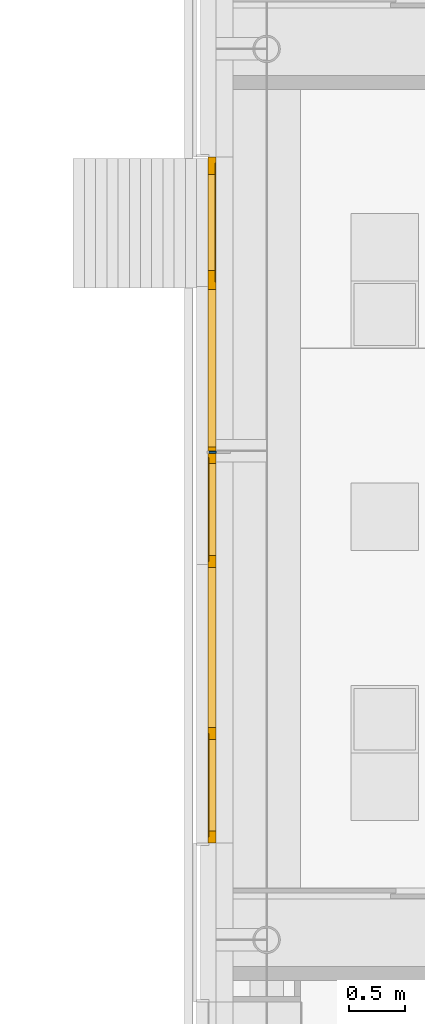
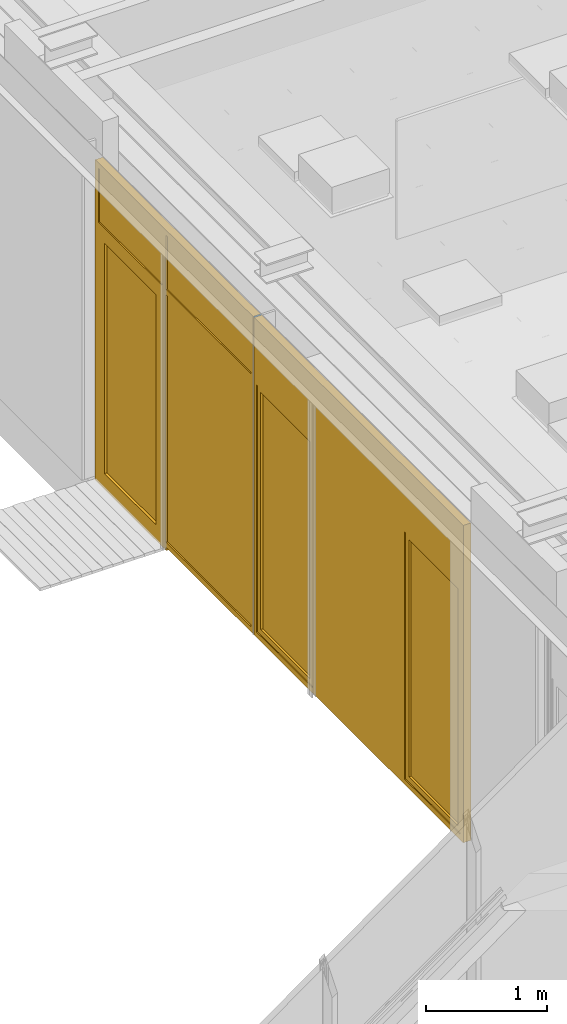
# One storey, part 26 of 347: 1 door, 1 member, 1 window, 2 openings.
"""IFC2X3 building model written with IfcOpenShell, lengths in millimetres."""

from ifc_helpers import new_model, entity, si_unit, converted_unit, derived_unit, money_unit, direction, frame, origin_with_axes, place, context, subcontext, project, spatial, open_shell, faceted_brep, surface_model, material, type_object, element, fill, save


model = new_model("IFC2X3")

# Units and contexts
model_context = context("Model", 3, precision=0.01, world=origin_with_axes(), true_north=direction((0.0, 1.0)))
plan_context = context("Plan", 3, precision=0.01, world=origin_with_axes(), true_north=direction((0.0, 1.0)))
body_context = subcontext(model_context, "Body", "Model", "MODEL_VIEW")
ifc_project = project(units=[si_unit("LENGTHUNIT", "METRE", prefix="MILLI"), si_unit("AREAUNIT", "SQUARE_METRE"), si_unit("VOLUMEUNIT", "CUBIC_METRE"), converted_unit("PLANEANGLEUNIT", "DEGREE", entity("IfcPlaneAngleMeasure", 0.0174532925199), si_unit("PLANEANGLEUNIT", "RADIAN"), dimensions=[0, 0, 0, 0, 0, 0, 0]), money_unit("EUR"), converted_unit("TIMEUNIT", "Year", entity("IfcTimeMeasure", 31556926.0), si_unit("TIMEUNIT", "SECOND"), dimensions=[0, 0, 1, 0, 0, 0, 0]), si_unit("MASSUNIT", "GRAM", prefix="KILO"), si_unit("THERMODYNAMICTEMPERATUREUNIT", "DEGREE_CELSIUS"), si_unit("LUMINOUSINTENSITYUNIT", "LUMEN"), si_unit("ENERGYUNIT", "JOULE", prefix="MEGA"), derived_unit("THERMALCONDUCTANCEUNIT", [(si_unit("POWERUNIT", "WATT"), 1), (si_unit("LENGTHUNIT", "METRE"), -1), (si_unit("THERMODYNAMICTEMPERATUREUNIT", "KELVIN"), -1)]), derived_unit("SPECIFICHEATCAPACITYUNIT", [(si_unit("ENERGYUNIT", "JOULE"), 1), (si_unit("MASSUNIT", "GRAM", prefix="KILO"), -1), (si_unit("THERMODYNAMICTEMPERATUREUNIT", "KELVIN"), -1)]), derived_unit("MASSDENSITYUNIT", [(si_unit("MASSUNIT", "GRAM", prefix="KILO"), 1), (si_unit("VOLUMEUNIT", "CUBIC_METRE"), -1)])], contexts=[model_context, plan_context])

# Site, building, storey
site_placement = place(None, origin_with_axes())
site = spatial("IfcSite", under=ifc_project, at=site_placement, Name="Site", CompositionType="ELEMENT")
building_placement = place(site_placement, origin_with_axes())
building = spatial("IfcBuilding", under=site, at=building_placement, Name="Naam gebouw", CompositionType="ELEMENT")
storey_placement = place(building_placement, origin_with_axes())
storey = spatial("IfcBuildingStorey", under=building, at=storey_placement, Name="begane grond", CompositionType="ELEMENT", Elevation=0.0)

# Member, openings, door, window
ifc_material = material(Name="31 pui/kozijn")
member_type = type_object("IfcMemberType", Name="31 pui (3200+) 62 x 3200", PredefinedType="MEMBER")
member_placement = place(storey_placement, frame((24275.0, 27312.5, 0.0), z_axis=(0.0, 0.0, 1.0), x_axis=(0.0, -1.0, 0.0)))
member = element("IfcMember", 1, at=member_placement, inside=storey, type_object=member_type, material=ifc_material, Name="21_31 buitenkozijn pui", ObjectType="MEMBER", context=body_context, shape_type="Brep", body=[
    faceted_brep([(2617.5, -150.0, 0.0), (2617.5, -150.0, 3200.0), (2632.50000034, -150.0, 3200.0), (2632.50000034, -150.0, 0.0), (2617.5, -212.0, 3200.0), (2617.5, -212.0, 0.0), (2632.50000034, -212.0, 3200.0), (2632.50000034, -212.0, 0.0)], [[[0, 1, 2, 3]], [[4, 1, 0, 5]], [[1, 4, 6, 2]], [[2, 6, 7, 3]], [[5, 0, 3, 7]], [[4, 5, 7, 6]]]),
])
opening_1_placement = place(member_placement, frame((4366.25000034, 0.0, -10.0), z_axis=(0.0, 0.0, 1.0), x_axis=(1.0, 0.0, 0.0)))
opening_1 = element("IfcOpeningElement", 2, at=opening_1_placement, cuts=member, Name="31_merk-AJ4", context=body_context, shape_type="Brep", body=[
    faceted_brep([(1733.75, 1320.0, 0.0), (1733.75, 1320.0, 3210.0), (1733.75, -1196.0, 3210.0), (1733.75, -1196.0, 0.0), (-1733.75, 1320.0, 0.0), (-1733.75, 1320.0, 3210.0), (-1733.75, -1196.0, 3210.0), (-1733.75, -1196.0, 0.0)], [[[0, 1, 2, 3]], [[0, 4, 5, 1]], [[1, 5, 6, 2]], [[3, 2, 6, 7]], [[4, 0, 3, 7]], [[5, 4, 7, 6]]]),
])
opening_2_placement = place(member_placement, frame((1308.75, 0.0, -40.0), z_axis=(0.0, 0.0, 1.0), x_axis=(1.0, 0.0, 0.0)))
opening_2 = element("IfcOpeningElement", 3, at=opening_2_placement, cuts=member, Name="32_merk-AJ3", context=body_context, shape_type="Brep", body=[
    faceted_brep([(1308.75, 1320.0, 30.0000107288), (1308.75, 1320.0, 3240.0), (1308.75, -1196.0, 3240.0), (1308.75, -1196.0, 30.0000107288), (-131.750017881, 1320.0, 30.0000107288), (-131.750017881, 1320.0, 0.0), (-1308.74999464, 1320.0, 0.0), (-1308.74999464, 1320.0, 3240.0), (-1308.74999464, -1196.0, 3240.0), (-1308.74999464, -1196.0, 0.0), (-131.750017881, -1196.0, 0.0), (-131.750017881, -1196.0, 30.0000107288)], [[[0, 1, 2, 3]], [[0, 4, 5, 6, 7, 1]], [[1, 7, 8, 2]], [[3, 2, 8, 9, 10, 11]], [[4, 0, 3, 11]], [[5, 4, 11, 10]], [[6, 5, 10, 9]], [[7, 6, 9, 8]]]),
])
door_style = type_object("IfcDoorStyle", Name="D1 bl zl1-b 25", ConstructionType="NOTDEFINED", OperationType="SINGLE_SWING_RIGHT", ParameterTakesPrecedence=False, Sizeable=False)
door_placement = place(opening_2_placement, frame((1308.75, 0.0, 0.0), z_axis=(0.0, 0.0, 1.0), x_axis=(-1.0, 0.0, 0.0)))
door = element("IfcDoor", 4, at=door_placement, inside=storey, type_object=door_style, Name="32_merk-AJ3", ObjectType="DOOR", OverallHeight=3240.0, OverallWidth=2617.5, context=body_context, shape_type="SurfaceModel", body=[
    faceted_brep([(2563.5, 222.0, 0.0), (2563.5, 150.0, 0.0), (1508.5, 150.0, 0.0), (1508.5, 222.0, 0.0), (2563.5, 222.0, 48.0), (2563.5, 150.0, 48.0), (1508.5, 150.0, 48.0), (1508.5, 222.0, 48.0)], [[[0, 1, 2, 3]], [[0, 4, 5, 1]], [[1, 5, 6, 2]], [[3, 2, 6, 7]], [[4, 0, 3, 7]], [[5, 4, 7, 6]]]),
    faceted_brep([(0.0, 222.0, 30.0), (39.0, 222.0, 30.0), (39.0, 150.0, 30.0), (0.0, 150.0, 30.0), (0.0, 222.0, 3186.0), (39.0, 222.0, 3186.0), (39.0, 222.0, 2640.0), (39.0, 222.0, 2586.0), (39.0, 222.0, 84.0), (39.0, 150.0, 84.0), (39.0, 150.0, 2586.0), (39.0, 150.0, 2640.0), (39.0, 150.0, 3186.0), (0.0, 150.0, 3186.0)], [[[0, 1, 2, 3]], [[0, 4, 5, 6, 7, 8, 1]], [[1, 8, 9, 2]], [[3, 2, 9, 10, 11, 12, 13]], [[4, 0, 3, 13]], [[5, 4, 13, 12]], [[6, 5, 12, 11]], [[7, 6, 11, 10]], [[8, 7, 10, 9]]]),
    faceted_brep([(1440.5, 222.0, 3186.0), (1440.5, 222.0, 2640.0), (1440.5, 150.0, 2640.0), (1440.5, 150.0, 3186.0), (1508.5, 222.0, 3186.0), (1508.5, 222.0, 2640.0), (1508.5, 222.0, 2586.0), (1508.5, 222.0, 0.0), (1440.5, 222.0, 0.0), (1440.5, 222.0, 30.0), (1440.5, 222.0, 84.0), (1440.5, 222.0, 2586.0), (1440.5, 150.0, 2586.0), (1440.5, 150.0, 84.0), (1440.5, 150.0, 30.0), (1440.5, 150.0, 0.0), (1508.5, 150.0, 0.0), (1508.5, 150.0, 2586.0), (1508.5, 150.0, 2640.0), (1508.5, 150.0, 3186.0)], [[[0, 1, 2, 3]], [[0, 4, 5, 6, 7, 8, 9, 10, 11, 1]], [[1, 11, 12, 2]], [[3, 2, 12, 13, 14, 15, 16, 17, 18, 19]], [[4, 0, 3, 19]], [[5, 4, 19, 18]], [[6, 5, 18, 17]], [[7, 6, 17, 16]], [[8, 7, 16, 15]], [[9, 8, 15, 14]], [[10, 9, 14, 13]], [[11, 10, 13, 12]]]),
    faceted_brep([(39.0, 222.0, 84.0), (39.0, 222.0, 30.0), (39.0, 150.0, 30.0), (39.0, 150.0, 84.0), (1440.5, 222.0, 84.0), (1440.5, 222.0, 30.0), (1440.5, 150.0, 30.0), (1440.5, 150.0, 84.0)], [[[0, 1, 2, 3]], [[0, 4, 5, 1]], [[1, 5, 6, 2]], [[3, 2, 6, 7]], [[4, 0, 3, 7]], [[5, 4, 7, 6]]]),
    faceted_brep([(2617.5, 222.0, 0.0), (2617.5, 222.0, 3186.0), (2617.5, 150.0, 3186.0), (2617.5, 150.0, 0.0), (2563.5, 222.0, 0.0), (2563.5, 222.0, 2586.0), (2563.5, 222.0, 2640.0), (2563.5, 222.0, 3186.0), (2563.5, 150.0, 3186.0), (2563.5, 150.0, 2640.0), (2563.5, 150.0, 2586.0), (2563.5, 150.0, 0.0)], [[[0, 1, 2, 3]], [[0, 4, 5, 6, 7, 1]], [[1, 7, 8, 2]], [[3, 2, 8, 9, 10, 11]], [[4, 0, 3, 11]], [[5, 4, 11, 10]], [[6, 5, 10, 9]], [[7, 6, 9, 8]]]),
    faceted_brep([(0.0, 222.0, 3240.0), (0.0, 222.0, 3186.0), (0.0, 150.0, 3186.0), (0.0, 150.0, 3240.0), (2617.5, 222.0, 3240.0), (2617.5, 222.0, 3186.0), (2563.5, 222.0, 3186.0), (1508.5, 222.0, 3186.0), (1440.5, 222.0, 3186.0), (39.0, 222.0, 3186.0), (39.0, 150.0, 3186.0), (1440.5, 150.0, 3186.0), (1508.5, 150.0, 3186.0), (2563.5, 150.0, 3186.0), (2617.5, 150.0, 3186.0), (2617.5, 150.0, 3240.0)], [[[0, 1, 2, 3]], [[0, 4, 5, 6, 7, 8, 9, 1]], [[1, 9, 10, 2]], [[3, 2, 10, 11, 12, 13, 14, 15]], [[4, 0, 3, 15]], [[5, 4, 15, 14]], [[6, 5, 14, 13]], [[7, 6, 13, 12]], [[8, 7, 12, 11]], [[9, 8, 11, 10]]]),
    faceted_brep([(39.0, 222.0, 2586.0), (1440.5, 222.0, 2586.0), (1440.5, 150.0, 2586.0), (39.0, 150.0, 2586.0), (39.0, 222.0, 2640.0), (1440.5, 222.0, 2640.0), (1440.5, 150.0, 2640.0), (39.0, 150.0, 2640.0)], [[[0, 1, 2, 3]], [[0, 4, 5, 1]], [[1, 5, 6, 2]], [[3, 2, 6, 7]], [[4, 0, 3, 7]], [[5, 4, 7, 6]]]),
    faceted_brep([(1508.5, 222.0, 2640.0), (1508.5, 222.0, 2586.0), (1508.5, 150.0, 2586.0), (1508.5, 150.0, 2640.0), (2563.5, 222.0, 2640.0), (2563.5, 222.0, 2586.0), (2563.5, 150.0, 2586.0), (2563.5, 150.0, 2640.0)], [[[0, 1, 2, 3]], [[0, 4, 5, 1]], [[1, 5, 6, 2]], [[3, 2, 6, 7]], [[4, 0, 3, 7]], [[5, 4, 7, 6]]]),
    faceted_brep([(2563.5, 222.0, 158.0), (2563.5, 160.0, 158.0), (2463.5, 160.0, 158.0), (2463.5, 222.0, 158.0), (2563.5, 222.0, 2486.0), (2563.5, 160.0, 2486.0), (2463.5, 160.0, 2486.0), (2463.5, 222.0, 2486.0)], [[[0, 1, 2, 3]], [[4, 5, 1, 0]], [[1, 5, 6, 2]], [[3, 2, 6, 7]], [[0, 3, 7, 4]], [[7, 6, 5, 4]]]),
    faceted_brep([(1508.5, 222.0, 158.0), (1508.5, 160.0, 158.0), (1508.5, 160.0, 2486.0), (1508.5, 222.0, 2486.0), (1608.5, 222.0, 158.0), (1608.5, 160.0, 158.0), (1608.5, 160.0, 2486.0), (1608.5, 222.0, 2486.0)], [[[0, 1, 2, 3]], [[4, 5, 1, 0]], [[1, 5, 6, 2]], [[3, 2, 6, 7]], [[0, 3, 7, 4]], [[7, 6, 5, 4]]]),
    faceted_brep([(2563.5, 222.0, 48.0), (2563.5, 160.0, 48.0), (1508.5, 160.0, 48.0), (1508.5, 222.0, 48.0), (2563.5, 222.0, 158.0), (2563.5, 160.0, 158.0), (2463.5, 160.0, 158.0), (1608.5, 160.0, 158.0), (1508.5, 160.0, 158.0), (1508.5, 222.0, 158.0), (1608.5, 222.0, 158.0), (2463.5, 222.0, 158.0)], [[[0, 1, 2, 3]], [[4, 5, 1, 0]], [[1, 5, 6, 7, 8, 2]], [[3, 2, 8, 9]], [[0, 3, 9, 10, 11, 4]], [[11, 6, 5, 4]], [[10, 7, 6, 11]], [[9, 8, 7, 10]]]),
    faceted_brep([(2563.5, 222.0, 2586.0), (2563.5, 160.0, 2586.0), (2563.5, 160.0, 2486.0), (2563.5, 222.0, 2486.0), (1508.5, 222.0, 2586.0), (1508.5, 160.0, 2586.0), (1508.5, 160.0, 2486.0), (1608.5, 160.0, 2486.0), (2463.5, 160.0, 2486.0), (2463.5, 222.0, 2486.0), (1608.5, 222.0, 2486.0), (1508.5, 222.0, 2486.0)], [[[0, 1, 2, 3]], [[4, 5, 1, 0]], [[1, 5, 6, 7, 8, 2]], [[3, 2, 8, 9]], [[0, 3, 9, 10, 11, 4]], [[11, 6, 5, 4]], [[10, 7, 6, 11]], [[9, 8, 7, 10]]]),
    surface_model("IfcShellBasedSurfaceModel", [(2463.5, 197.0, 158.0), (1608.5, 197.0, 158.0), (1608.5, 197.0, 2486.0), (2463.5, 197.0, 2486.0)], [open_shell([[[0, 1, 2, 3]]])]),
    surface_model("IfcShellBasedSurfaceModel", [(2463.5, 185.0, 158.0), (2463.5, 185.0, 2486.0), (1608.5, 185.0, 2486.0), (1608.5, 185.0, 158.0)], [open_shell([[[0, 1, 2, 3]]])]),
    surface_model("IfcShellBasedSurfaceModel", [(39.0, 210.0, 2640.0), (39.0, 210.0, 3186.0), (1440.5, 210.0, 3186.0), (1440.5, 210.0, 2640.0)], [open_shell([[[0, 1, 2, 3]]])]),
    surface_model("IfcShellBasedSurfaceModel", [(39.0, 198.0, 2640.0), (1440.5, 198.0, 2640.0), (1440.5, 198.0, 3186.0), (39.0, 198.0, 3186.0)], [open_shell([[[0, 1, 2, 3]]])]),
    surface_model("IfcShellBasedSurfaceModel", [(1508.5, 210.0, 2640.0), (1508.5, 210.0, 3186.0), (2563.5, 210.0, 3186.0), (2563.5, 210.0, 2640.0)], [open_shell([[[0, 1, 2, 3]]])]),
    surface_model("IfcShellBasedSurfaceModel", [(1508.5, 198.0, 2640.0), (2563.5, 198.0, 2640.0), (2563.5, 198.0, 3186.0), (1508.5, 198.0, 3186.0)], [open_shell([[[0, 1, 2, 3]]])]),
    surface_model("IfcShellBasedSurfaceModel", [(39.0, 210.0, 84.0), (39.0, 210.0, 2586.0), (1440.5, 210.0, 2586.0), (1440.5, 210.0, 84.0)], [open_shell([[[0, 1, 2, 3]]])]),
    surface_model("IfcShellBasedSurfaceModel", [(39.0, 198.0, 84.0), (1440.5, 198.0, 84.0), (1440.5, 198.0, 2586.0), (39.0, 198.0, 2586.0)], [open_shell([[[0, 1, 2, 3]]])]),
])
fill(opening_2, door)
window_style = type_object("IfcWindowStyle", Name="R3 bl ol 25", ConstructionType="NOTDEFINED", OperationType="USERDEFINED", ParameterTakesPrecedence=False, Sizeable=False)
window_placement = place(opening_1_placement, frame((-1733.75, 0.0, 0.0), z_axis=(0.0, 0.0, 1.0), x_axis=(1.0, 0.0, 0.0)))
window = element("IfcWindow", 5, at=window_placement, inside=storey, type_object=window_style, Name="31_merk-AJ4", ObjectType="WINDOW", OverallHeight=3210.0, OverallWidth=3467.5, context=body_context, shape_type="SurfaceModel", body=[
    faceted_brep([(24.0, -150.0, 54.0), (0.0, -150.0, 54.0), (0.0, -150.0, 3156.0), (39.0, -150.0, 3156.0), (39.0, -150.0, 2610.0), (39.0, -150.0, 2571.0), (24.0, -150.0, 2571.0), (24.0, -212.0, 54.0), (39.0, -212.0, 54.0), (39.0, -222.0, 54.0), (0.0, -222.0, 54.0), (0.0, -222.0, 3156.0), (39.0, -222.0, 3156.0), (39.0, -222.0, 2610.0), (39.0, -212.0, 2571.0), (39.0, -222.0, 2556.0), (39.0, -212.0, 2556.0), (24.0, -212.0, 2571.0)], [[[0, 1, 2, 3, 4, 5, 6]], [[7, 8, 9, 10, 1, 0]], [[2, 1, 10, 11]], [[3, 2, 11, 12]], [[4, 3, 12, 13]], [[14, 5, 4, 13, 15, 16]], [[14, 17, 6, 5]], [[6, 17, 7, 0]], [[16, 8, 7, 17, 14]], [[16, 15, 9, 8]], [[13, 12, 11, 10, 9, 15]]]),
    faceted_brep([(3428.5, -150.0, 2571.0), (3413.5, -150.0, 2571.0), (3413.5, -150.0, 2610.0), (3413.5, -150.0, 3156.0), (3467.5, -150.0, 3156.0), (3467.5, -150.0, 54.0), (3428.5, -150.0, 54.0), (3428.5, -212.0, 2571.0), (3413.5, -212.0, 2571.0), (3413.5, -212.0, 2556.0), (3413.5, -222.0, 2556.0), (3413.5, -222.0, 2610.0), (3413.5, -222.0, 3156.0), (3467.5, -222.0, 3156.0), (3467.5, -222.0, 54.0), (3428.5, -212.0, 54.0), (3413.5, -222.0, 54.0), (3413.5, -212.0, 54.0)], [[[0, 1, 2, 3, 4, 5, 6]], [[0, 7, 8, 1]], [[8, 9, 10, 11, 2, 1]], [[3, 2, 11, 12]], [[4, 3, 12, 13]], [[5, 4, 13, 14]], [[15, 6, 5, 14, 16, 17]], [[6, 15, 7, 0]], [[17, 9, 8, 7, 15]], [[17, 16, 10, 9]], [[14, 13, 12, 11, 10, 16]]]),
    faceted_brep([(2479.5, -150.0, 54.0), (2440.5, -150.0, 54.0), (2440.5, -150.0, 2556.0), (2440.5, -150.0, 2610.0), (2440.5, -150.0, 3156.0), (2494.5, -150.0, 3156.0), (2494.5, -150.0, 2610.0), (2494.5, -150.0, 2571.0), (2479.5, -150.0, 2571.0), (2479.5, -212.0, 54.0), (2494.5, -212.0, 54.0), (2494.5, -222.0, 54.0), (2440.5, -222.0, 54.0), (2440.5, -222.0, 2556.0), (2440.5, -222.0, 2610.0), (2440.5, -222.0, 3156.0), (2494.5, -222.0, 3156.0), (2494.5, -222.0, 2610.0), (2494.5, -212.0, 2571.0), (2494.5, -222.0, 2556.0), (2494.5, -212.0, 2556.0), (2479.5, -212.0, 2571.0)], [[[0, 1, 2, 3, 4, 5, 6, 7, 8]], [[9, 10, 11, 12, 1, 0]], [[2, 1, 12, 13]], [[3, 2, 13, 14]], [[4, 3, 14, 15]], [[5, 4, 15, 16]], [[6, 5, 16, 17]], [[18, 7, 6, 17, 19, 20]], [[18, 21, 8, 7]], [[8, 21, 9, 0]], [[20, 10, 9, 21, 18]], [[20, 19, 11, 10]], [[13, 12, 11, 19, 17, 16, 15, 14]]]),
    faceted_brep([(980.5, -150.0, 2571.0), (965.5, -150.0, 2571.0), (965.5, -150.0, 2610.0), (965.5, -150.0, 3156.0), (1019.5, -150.0, 3156.0), (1019.5, -150.0, 2610.0), (1019.5, -150.0, 2556.0), (1019.5, -150.0, 54.0), (980.5, -150.0, 54.0), (980.5, -212.0, 2571.0), (965.5, -212.0, 2571.0), (965.5, -212.0, 2556.0), (965.5, -222.0, 2556.0), (965.5, -222.0, 2610.0), (965.5, -222.0, 3156.0), (1019.5, -222.0, 3156.0), (1019.5, -222.0, 2610.0), (1019.5, -222.0, 2556.0), (1019.5, -222.0, 54.0), (980.5, -212.0, 54.0), (965.5, -222.0, 54.0), (965.5, -212.0, 54.0)], [[[0, 1, 2, 3, 4, 5, 6, 7, 8]], [[0, 9, 10, 1]], [[10, 11, 12, 13, 2, 1]], [[3, 2, 13, 14]], [[4, 3, 14, 15]], [[5, 4, 15, 16]], [[6, 5, 16, 17]], [[7, 6, 17, 18]], [[19, 8, 7, 18, 20, 21]], [[8, 19, 9, 0]], [[21, 11, 10, 9, 19]], [[21, 20, 12, 11]], [[14, 13, 12, 20, 18, 17, 16, 15]]]),
    faceted_brep([(2494.5, -150.0, 2571.0), (2494.5, -150.0, 2610.0), (3413.5, -150.0, 2610.0), (3413.5, -150.0, 2571.0), (2494.5, -212.0, 2571.0), (2494.5, -212.0, 2556.0), (2494.5, -222.0, 2556.0), (2494.5, -222.0, 2610.0), (3413.5, -222.0, 2610.0), (3413.5, -212.0, 2571.0), (3413.5, -222.0, 2556.0), (3413.5, -212.0, 2556.0)], [[[0, 1, 2, 3]], [[4, 5, 6, 7, 1, 0]], [[2, 1, 7, 8]], [[9, 3, 2, 8, 10, 11]], [[9, 4, 0, 3]], [[11, 5, 4, 9]], [[11, 10, 6, 5]], [[8, 7, 6, 10]]]),
    faceted_brep([(1019.5, -150.0, 2610.0), (1019.5, -150.0, 2556.0), (1019.5, -222.0, 2556.0), (1019.5, -222.0, 2610.0), (2440.5, -150.0, 2610.0), (2440.5, -150.0, 2556.0), (2440.5, -222.0, 2556.0), (2440.5, -222.0, 2610.0)], [[[0, 1, 2, 3]], [[4, 5, 1, 0]], [[1, 5, 6, 2]], [[2, 6, 7, 3]], [[4, 0, 3, 7]], [[5, 4, 7, 6]]]),
    faceted_brep([(39.0, -150.0, 2571.0), (39.0, -150.0, 2610.0), (965.5, -150.0, 2610.0), (965.5, -150.0, 2571.0), (39.0, -212.0, 2571.0), (39.0, -212.0, 2556.0), (39.0, -222.0, 2556.0), (39.0, -222.0, 2610.0), (965.5, -222.0, 2610.0), (965.5, -212.0, 2571.0), (965.5, -222.0, 2556.0), (965.5, -212.0, 2556.0)], [[[0, 1, 2, 3]], [[4, 5, 6, 7, 1, 0]], [[2, 1, 7, 8]], [[9, 3, 2, 8, 10, 11]], [[9, 4, 0, 3]], [[11, 5, 4, 9]], [[11, 10, 6, 5]], [[8, 7, 6, 10]]]),
    faceted_brep([(965.5, -212.0, 54.0), (965.5, -222.0, 54.0), (1019.5, -222.0, 54.0), (1019.5, -150.0, 54.0), (980.5, -150.0, 54.0), (980.5, -212.0, 54.0), (39.0, -212.0, 54.0), (39.0, -222.0, 54.0), (0.0, -222.0, 54.0), (0.0, -222.0, 0.0), (3467.5, -222.0, 0.0), (3467.5, -222.0, 54.0), (3413.5, -222.0, 54.0), (2494.5, -222.0, 54.0), (2440.5, -222.0, 54.0), (2440.5, -150.0, 54.0), (24.0, -150.0, 39.0), (980.5, -150.0, 39.0), (2479.5, -150.0, 54.0), (2479.5, -150.0, 39.0), (3428.5, -150.0, 39.0), (3428.5, -150.0, 54.0), (3467.5, -150.0, 54.0), (3467.5, -150.0, 0.0), (0.0, -150.0, 0.0), (0.0, -150.0, 54.0), (24.0, -150.0, 54.0), (980.5, -212.0, 39.0), (24.0, -212.0, 39.0), (24.0, -212.0, 54.0), (3413.5, -212.0, 54.0), (3428.5, -212.0, 54.0), (2494.5, -212.0, 54.0), (2479.5, -212.0, 54.0), (2479.5, -212.0, 39.0), (3428.5, -212.0, 39.0)], [[[0, 1, 2, 3, 4, 5]], [[6, 7, 1, 0]], [[8, 9, 10, 11, 12, 13, 14, 2, 1, 7]], [[15, 3, 2, 14]], [[16, 17, 4, 3, 15, 18, 19, 20, 21, 22, 23, 24, 25, 26]], [[17, 27, 5, 4]], [[5, 27, 28, 29, 6, 0]], [[29, 26, 25, 8, 7, 6]], [[25, 24, 9, 8]], [[24, 23, 10, 9]], [[23, 22, 11, 10]], [[30, 12, 11, 22, 21, 31]], [[32, 13, 12, 30]], [[33, 18, 15, 14, 13, 32]], [[16, 28, 27, 17]], [[33, 34, 19, 18]], [[19, 34, 35, 20]], [[20, 35, 31, 21]], [[29, 28, 16, 26]], [[31, 35, 34, 33, 32, 30]]]),
    faceted_brep([(965.5, -222.0, 3156.0), (965.5, -150.0, 3156.0), (1019.5, -150.0, 3156.0), (1019.5, -222.0, 3156.0), (39.0, -222.0, 3156.0), (39.0, -150.0, 3156.0), (0.0, -150.0, 3156.0), (0.0, -150.0, 3210.0), (3467.5, -150.0, 3210.0), (3467.5, -150.0, 3156.0), (3413.5, -150.0, 3156.0), (2494.5, -150.0, 3156.0), (2440.5, -150.0, 3156.0), (2440.5, -222.0, 3156.0), (2494.5, -222.0, 3156.0), (3413.5, -222.0, 3156.0), (3467.5, -222.0, 3156.0), (3467.5, -222.0, 3210.0), (0.0, -222.0, 3210.0), (0.0, -222.0, 3156.0)], [[[0, 1, 2, 3]], [[4, 5, 1, 0]], [[1, 5, 6, 7, 8, 9, 10, 11, 12, 2]], [[3, 2, 12, 13]], [[0, 3, 13, 14, 15, 16, 17, 18, 19, 4]], [[19, 6, 5, 4]], [[18, 7, 6, 19]], [[17, 8, 7, 18]], [[16, 9, 8, 17]], [[15, 10, 9, 16]], [[14, 11, 10, 15]], [[13, 12, 11, 14]]]),
    surface_model("IfcShellBasedSurfaceModel", [(39.0, -222.0, 2610.0), (965.5, -222.0, 2610.0), (965.5, -222.0, 3156.0), (39.0, -222.0, 3156.0)], [open_shell([[[0, 1, 2, 3]]])]),
    surface_model("IfcShellBasedSurfaceModel", [(39.0, -202.0, 2610.0), (39.0, -202.0, 3156.0), (965.5, -202.0, 3156.0), (965.5, -202.0, 2610.0)], [open_shell([[[0, 1, 2, 3]]])]),
    surface_model("IfcShellBasedSurfaceModel", [(1019.5, -222.0, 2610.0), (2440.5, -222.0, 2610.0), (2440.5, -222.0, 3156.0), (1019.5, -222.0, 3156.0)], [open_shell([[[0, 1, 2, 3]]])]),
    surface_model("IfcShellBasedSurfaceModel", [(1019.5, -202.0, 2610.0), (1019.5, -202.0, 3156.0), (2440.5, -202.0, 3156.0), (2440.5, -202.0, 2610.0)], [open_shell([[[0, 1, 2, 3]]])]),
    surface_model("IfcShellBasedSurfaceModel", [(2494.5, -222.0, 2610.0), (3413.5, -222.0, 2610.0), (3413.5, -222.0, 3156.0), (2494.5, -222.0, 3156.0)], [open_shell([[[0, 1, 2, 3]]])]),
    surface_model("IfcShellBasedSurfaceModel", [(2494.5, -202.0, 2610.0), (2494.5, -202.0, 3156.0), (3413.5, -202.0, 3156.0), (3413.5, -202.0, 2610.0)], [open_shell([[[0, 1, 2, 3]]])]),
    faceted_brep([(92.0, -212.0, 2503.0), (92.0, -150.0, 2503.0), (24.0, -150.0, 2503.0), (24.0, -212.0, 2503.0), (92.0, -212.0, 107.0), (92.0, -150.0, 107.0), (24.0, -150.0, 107.0), (24.0, -212.0, 107.0)], [[[0, 1, 2, 3]], [[4, 5, 1, 0]], [[1, 5, 6, 2]], [[3, 2, 6, 7]], [[0, 3, 7, 4]], [[7, 6, 5, 4]]]),
    faceted_brep([(912.5, -212.0, 107.0), (912.5, -150.0, 107.0), (980.5, -150.0, 107.0), (980.5, -212.0, 107.0), (912.5, -212.0, 2503.0), (912.5, -150.0, 2503.0), (980.5, -150.0, 2503.0), (980.5, -212.0, 2503.0)], [[[0, 1, 2, 3]], [[4, 5, 1, 0]], [[1, 5, 6, 2]], [[3, 2, 6, 7]], [[0, 3, 7, 4]], [[7, 6, 5, 4]]]),
    faceted_brep([(980.5, -212.0, 39.0), (980.5, -150.0, 39.0), (980.5, -150.0, 107.0), (980.5, -212.0, 107.0), (24.0, -212.0, 39.0), (24.0, -150.0, 39.0), (24.0, -150.0, 107.0), (92.0, -150.0, 107.0), (912.5, -150.0, 107.0), (912.5, -212.0, 107.0), (92.0, -212.0, 107.0), (24.0, -212.0, 107.0)], [[[0, 1, 2, 3]], [[4, 5, 1, 0]], [[1, 5, 6, 7, 8, 2]], [[3, 2, 8, 9]], [[0, 3, 9, 10, 11, 4]], [[11, 6, 5, 4]], [[10, 7, 6, 11]], [[9, 8, 7, 10]]]),
    faceted_brep([(24.0, -212.0, 2571.0), (24.0, -150.0, 2571.0), (24.0, -150.0, 2503.0), (24.0, -212.0, 2503.0), (980.5, -212.0, 2571.0), (980.5, -150.0, 2571.0), (980.5, -150.0, 2503.0), (912.5, -150.0, 2503.0), (92.0, -150.0, 2503.0), (92.0, -212.0, 2503.0), (912.5, -212.0, 2503.0), (980.5, -212.0, 2503.0)], [[[0, 1, 2, 3]], [[4, 5, 1, 0]], [[1, 5, 6, 7, 8, 2]], [[3, 2, 8, 9]], [[0, 3, 9, 10, 11, 4]], [[11, 6, 5, 4]], [[10, 7, 6, 11]], [[9, 8, 7, 10]]]),
    surface_model("IfcShellBasedSurfaceModel", [(92.0, -191.0, 107.0), (912.5, -191.0, 107.0), (912.5, -191.0, 2503.0), (92.0, -191.0, 2503.0)], [open_shell([[[0, 1, 2, 3]]])]),
    surface_model("IfcShellBasedSurfaceModel", [(92.0, -171.0, 107.0), (92.0, -171.0, 2503.0), (912.5, -171.0, 2503.0), (912.5, -171.0, 107.0)], [open_shell([[[0, 1, 2, 3]]])]),
    surface_model("IfcShellBasedSurfaceModel", [(1019.5, -222.0, 54.0), (2440.5, -222.0, 54.0), (2440.5, -222.0, 2556.0), (1019.5, -222.0, 2556.0)], [open_shell([[[0, 1, 2, 3]]])]),
    surface_model("IfcShellBasedSurfaceModel", [(1019.5, -202.0, 54.0), (1019.5, -202.0, 2556.0), (2440.5, -202.0, 2556.0), (2440.5, -202.0, 54.0)], [open_shell([[[0, 1, 2, 3]]])]),
    faceted_brep([(2547.5, -212.0, 2503.0), (2547.5, -150.0, 2503.0), (2479.5, -150.0, 2503.0), (2479.5, -212.0, 2503.0), (2547.5, -212.0, 107.0), (2547.5, -150.0, 107.0), (2479.5, -150.0, 107.0), (2479.5, -212.0, 107.0)], [[[0, 1, 2, 3]], [[4, 5, 1, 0]], [[1, 5, 6, 2]], [[3, 2, 6, 7]], [[0, 3, 7, 4]], [[7, 6, 5, 4]]]),
    faceted_brep([(3360.5, -212.0, 107.0), (3360.5, -150.0, 107.0), (3428.5, -150.0, 107.0), (3428.5, -212.0, 107.0), (3360.5, -212.0, 2503.0), (3360.5, -150.0, 2503.0), (3428.5, -150.0, 2503.0), (3428.5, -212.0, 2503.0)], [[[0, 1, 2, 3]], [[4, 5, 1, 0]], [[1, 5, 6, 2]], [[3, 2, 6, 7]], [[0, 3, 7, 4]], [[7, 6, 5, 4]]]),
    faceted_brep([(3428.5, -212.0, 39.0), (3428.5, -150.0, 39.0), (3428.5, -150.0, 107.0), (3428.5, -212.0, 107.0), (2479.5, -212.0, 39.0), (2479.5, -150.0, 39.0), (2479.5, -150.0, 107.0), (2547.5, -150.0, 107.0), (3360.5, -150.0, 107.0), (3360.5, -212.0, 107.0), (2547.5, -212.0, 107.0), (2479.5, -212.0, 107.0)], [[[0, 1, 2, 3]], [[4, 5, 1, 0]], [[1, 5, 6, 7, 8, 2]], [[3, 2, 8, 9]], [[0, 3, 9, 10, 11, 4]], [[11, 6, 5, 4]], [[10, 7, 6, 11]], [[9, 8, 7, 10]]]),
    faceted_brep([(2479.5, -212.0, 2571.0), (2479.5, -150.0, 2571.0), (2479.5, -150.0, 2503.0), (2479.5, -212.0, 2503.0), (3428.5, -212.0, 2571.0), (3428.5, -150.0, 2571.0), (3428.5, -150.0, 2503.0), (3360.5, -150.0, 2503.0), (2547.5, -150.0, 2503.0), (2547.5, -212.0, 2503.0), (3360.5, -212.0, 2503.0), (3428.5, -212.0, 2503.0)], [[[0, 1, 2, 3]], [[4, 5, 1, 0]], [[1, 5, 6, 7, 8, 2]], [[3, 2, 8, 9]], [[0, 3, 9, 10, 11, 4]], [[11, 6, 5, 4]], [[10, 7, 6, 11]], [[9, 8, 7, 10]]]),
    surface_model("IfcShellBasedSurfaceModel", [(2547.5, -191.0, 107.0), (3360.5, -191.0, 107.0), (3360.5, -191.0, 2503.0), (2547.5, -191.0, 2503.0)], [open_shell([[[0, 1, 2, 3]]])]),
    surface_model("IfcShellBasedSurfaceModel", [(2547.5, -171.0, 107.0), (2547.5, -171.0, 2503.0), (3360.5, -171.0, 2503.0), (3360.5, -171.0, 107.0)], [open_shell([[[0, 1, 2, 3]]])]),
])
fill(opening_1, window)

save(model, "model.ifc")
